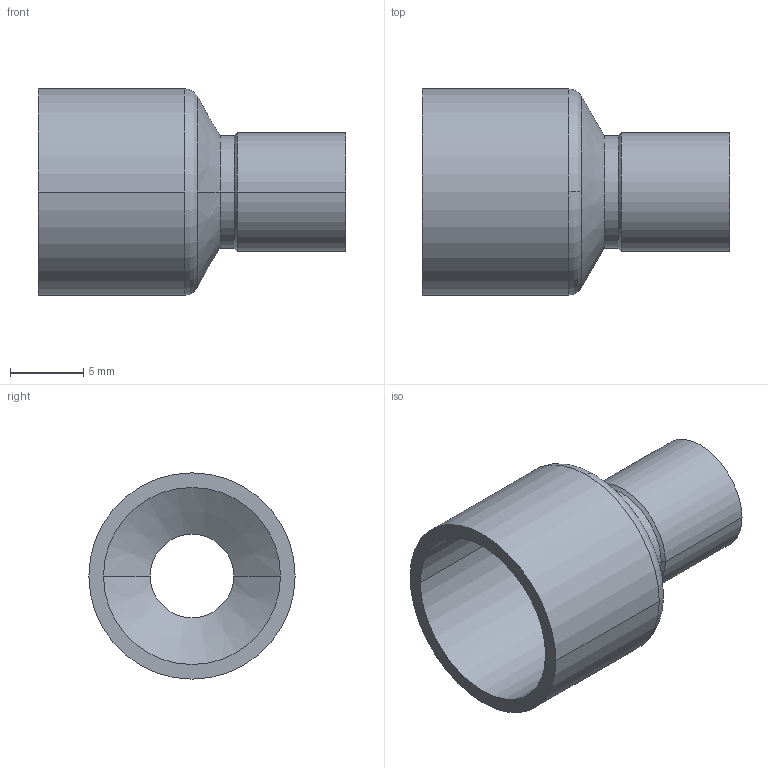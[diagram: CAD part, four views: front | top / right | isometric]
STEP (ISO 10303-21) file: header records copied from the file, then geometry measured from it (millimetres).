
FILE_DESCRIPTION((''),'2;1');
FILE_NAME('G:\Technics\CAD\Bauteile\Serie 15240\15240126.stp','2005-10-21T12:50:59',('boden'),(''),'Autodesk Inventor 8','Autodesk Inventor 8','');
FILE_SCHEMA(('AUTOMOTIVE_DESIGN { 1 0 10303 214 1 1 1 1 }'));
Length unit declared in the file: millimetre
Products named in the file (1): 15240126
Bounding box: 21 x 14.11 x 14.11 mm (x, y, z)
Volume: 734.3 mm3; surface area: 1531.8 mm2
Topology: 1 solids, 1 shells, 24 faces, 52 edges, 30 vertices
Faces by surface type: cylinder 12, cone 8, torus 2, plane 2
Entity records: 683 total; most frequent: DIRECTION 134, CARTESIAN_POINT 107, ORIENTED_EDGE 104, AXIS2_PLACEMENT_3D 57, EDGE_CURVE 52, CIRCLE 32, VERTEX_POINT 30, EDGE_LOOP 26
